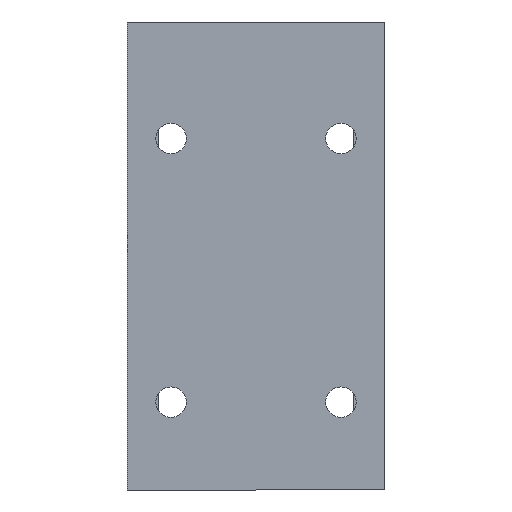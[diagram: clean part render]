
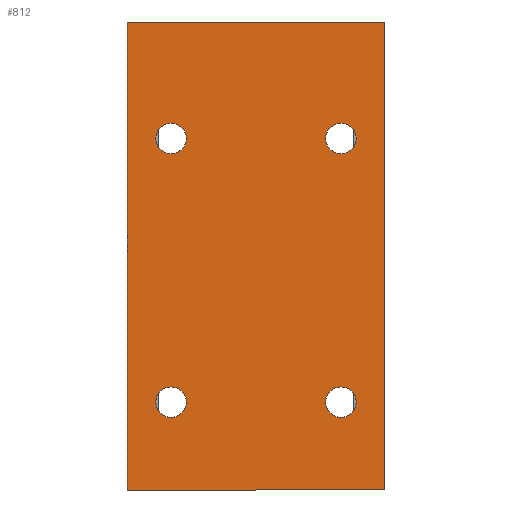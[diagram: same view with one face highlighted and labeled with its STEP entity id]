
A CAD part, front view. The second image highlights one B-rep face of the part: STEP entity #812.
In plain terms, the highlighted planar face has unit normal (0, -1, 0).
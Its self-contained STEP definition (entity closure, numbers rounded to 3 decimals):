
#184 = VERTEX_POINT('',#185);
#185 = CARTESIAN_POINT('',(88.,0.,0.));
#193 = VERTEX_POINT('',#194);
#194 = CARTESIAN_POINT('',(88.,0.,159.8));
#200 = EDGE_CURVE('',#184,#193,#201,.T.);
#201 = LINE('',#202,#203);
#202 = CARTESIAN_POINT('',(88.,0.,0.));
#203 = VECTOR('',#204,1.);
#204 = DIRECTION('',(0.,0.,1.));
#215 = VERTEX_POINT('',#216);
#216 = CARTESIAN_POINT('',(0.,0.,0.));
#224 = EDGE_CURVE('',#184,#215,#225,.T.);
#225 = LINE('',#226,#227);
#226 = CARTESIAN_POINT('',(88.,0.,0.));
#227 = VECTOR('',#228,1.);
#228 = DIRECTION('',(-1.,0.,0.));
#239 = VERTEX_POINT('',#240);
#240 = CARTESIAN_POINT('',(0.,0.,159.8));
#246 = EDGE_CURVE('',#193,#239,#247,.T.);
#247 = LINE('',#248,#249);
#248 = CARTESIAN_POINT('',(88.,0.,159.8));
#249 = VECTOR('',#250,1.);
#250 = DIRECTION('',(-1.,0.,0.));
#450 = EDGE_CURVE('',#215,#239,#451,.T.);
#451 = LINE('',#452,#453);
#452 = CARTESIAN_POINT('',(0.,0.,0.));
#453 = VECTOR('',#454,1.);
#454 = DIRECTION('',(0.,0.,1.));
#812 = ADVANCED_FACE('',(#813,#819,#830,#841,#852),#863,.F.);
#813 = FACE_BOUND('',#814,.F.);
#814 = EDGE_LOOP('',(#815,#816,#817,#818));
#815 = ORIENTED_EDGE('',*,*,#246,.F.);
#816 = ORIENTED_EDGE('',*,*,#200,.F.);
#817 = ORIENTED_EDGE('',*,*,#224,.T.);
#818 = ORIENTED_EDGE('',*,*,#450,.T.);
#819 = FACE_BOUND('',#820,.F.);
#820 = EDGE_LOOP('',(#821));
#821 = ORIENTED_EDGE('',*,*,#822,.F.);
#822 = EDGE_CURVE('',#823,#823,#825,.T.);
#823 = VERTEX_POINT('',#824);
#824 = CARTESIAN_POINT('',(67.8,0.,30.));
#825 = CIRCLE('',#826,5.2);
#826 = AXIS2_PLACEMENT_3D('',#827,#828,#829);
#827 = CARTESIAN_POINT('',(73.,0.,30.));
#828 = DIRECTION('',(0.,1.,0.));
#829 = DIRECTION('',(-1.,0.,0.));
#830 = FACE_BOUND('',#831,.F.);
#831 = EDGE_LOOP('',(#832));
#832 = ORIENTED_EDGE('',*,*,#833,.F.);
#833 = EDGE_CURVE('',#834,#834,#836,.T.);
#834 = VERTEX_POINT('',#835);
#835 = CARTESIAN_POINT('',(9.8,0.,30.));
#836 = CIRCLE('',#837,5.2);
#837 = AXIS2_PLACEMENT_3D('',#838,#839,#840);
#838 = CARTESIAN_POINT('',(15.,0.,30.));
#839 = DIRECTION('',(0.,1.,0.));
#840 = DIRECTION('',(-1.,0.,0.));
#841 = FACE_BOUND('',#842,.F.);
#842 = EDGE_LOOP('',(#843));
#843 = ORIENTED_EDGE('',*,*,#844,.F.);
#844 = EDGE_CURVE('',#845,#845,#847,.T.);
#845 = VERTEX_POINT('',#846);
#846 = CARTESIAN_POINT('',(67.8,0.,120.));
#847 = CIRCLE('',#848,5.2);
#848 = AXIS2_PLACEMENT_3D('',#849,#850,#851);
#849 = CARTESIAN_POINT('',(73.,0.,120.));
#850 = DIRECTION('',(0.,1.,0.));
#851 = DIRECTION('',(-1.,0.,0.));
#852 = FACE_BOUND('',#853,.F.);
#853 = EDGE_LOOP('',(#854));
#854 = ORIENTED_EDGE('',*,*,#855,.F.);
#855 = EDGE_CURVE('',#856,#856,#858,.T.);
#856 = VERTEX_POINT('',#857);
#857 = CARTESIAN_POINT('',(9.8,0.,120.));
#858 = CIRCLE('',#859,5.2);
#859 = AXIS2_PLACEMENT_3D('',#860,#861,#862);
#860 = CARTESIAN_POINT('',(15.,0.,120.));
#861 = DIRECTION('',(0.,1.,0.));
#862 = DIRECTION('',(-1.,0.,0.));
#863 = PLANE('',#864);
#864 = AXIS2_PLACEMENT_3D('',#865,#866,#867);
#865 = CARTESIAN_POINT('',(88.,0.,0.));
#866 = DIRECTION('',(0.,1.,0.));
#867 = DIRECTION('',(-1.,0.,0.));
